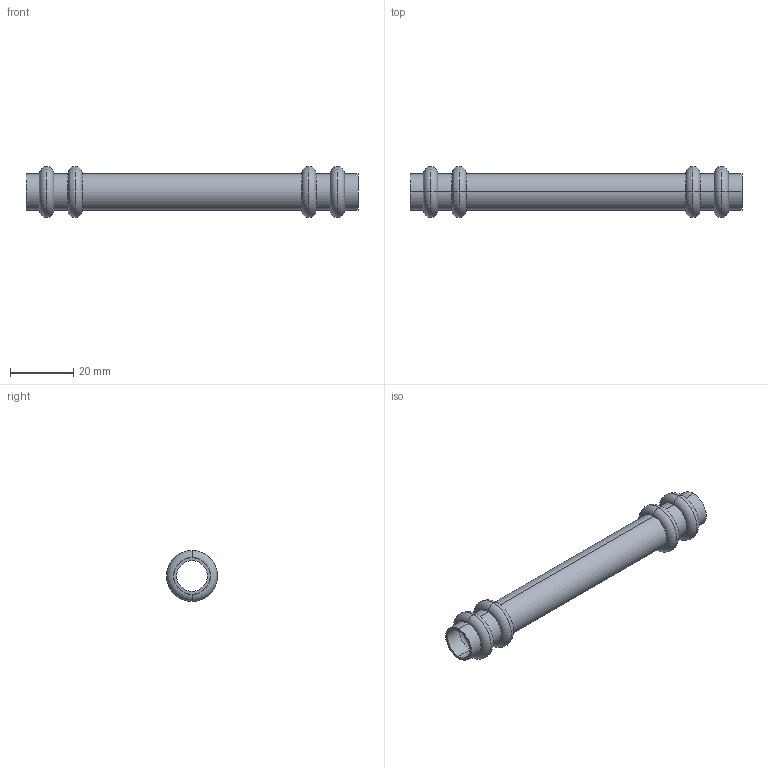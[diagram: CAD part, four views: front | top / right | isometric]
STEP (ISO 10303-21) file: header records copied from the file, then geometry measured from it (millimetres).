
FILE_DESCRIPTION(('starvars output'),'1');
FILE_NAME('cv20240422105423000012018.stp','10:54:23 2024/04/22',('Thomas Industrial Network Germany GmbH'),(' '),'Spatial InterOp 3D',' ',' ');
FILE_SCHEMA(('AUTOMOTIVE_DESIGN { 1 0 10303 214 3 1 1 }'));
Length unit declared in the file: millimetre
Products named in the file (1): 1
Bounding box: 104.9 x 16.1 x 16.1 mm (x, y, z)
Volume: 3672.9 mm3; surface area: 8310.6 mm2
Topology: 1 solids, 1 shells, 70 faces, 140 edges, 88 vertices
Faces by surface type: torus 32, cylinder 20, plane 18
Entity records: 2464 total; most frequent: DIRECTION 402, CARTESIAN_POINT 299, ORIENTED_EDGE 280, AXIS2_PLACEMENT_3D 191, EDGE_CURVE 140, CIRCLE 120, EDGE_LOOP 88, VERTEX_POINT 88
